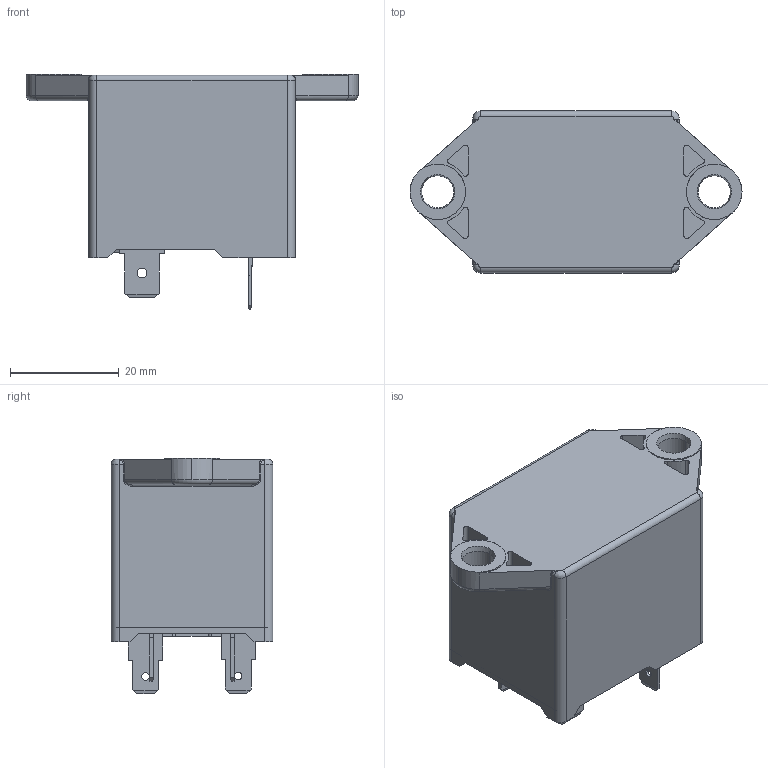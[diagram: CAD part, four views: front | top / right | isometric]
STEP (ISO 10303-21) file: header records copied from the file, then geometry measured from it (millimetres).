
FILE_DESCRIPTION (( 'STEP AP203' ), '1' );
FILE_NAME ('CHDR1-20（TAB） .STEP', '2026-08-14T03:41:13', ( '' ), ( '' ), 'SwSTEP 2.0', 'SolidWorks 2016', '' );
FILE_SCHEMA (( 'CONFIG_CONTROL_DESIGN' ));
Length unit declared in the file: millimetre
Products named in the file (1): CHDR1-20（TAB） 
Bounding box: 61.1 x 29.8 x 43.4 mm (x, y, z)
Surface area: 14962.1 mm2 (no closed solid volume)
Topology: 0 solids, 8 shells, 339 faces, 1162 edges, 831 vertices
Faces by surface type: plane 196, cylinder 116, bspline 12, cone 8, torus 7
Entity records: 12854 total; most frequent: CARTESIAN_POINT 2649, DIRECTION 2088, ORIENTED_EDGE 1988, EDGE_CURVE 1158, LINE 844, VECTOR 844, VERTEX_POINT 831, AXIS2_PLACEMENT_3D 622
